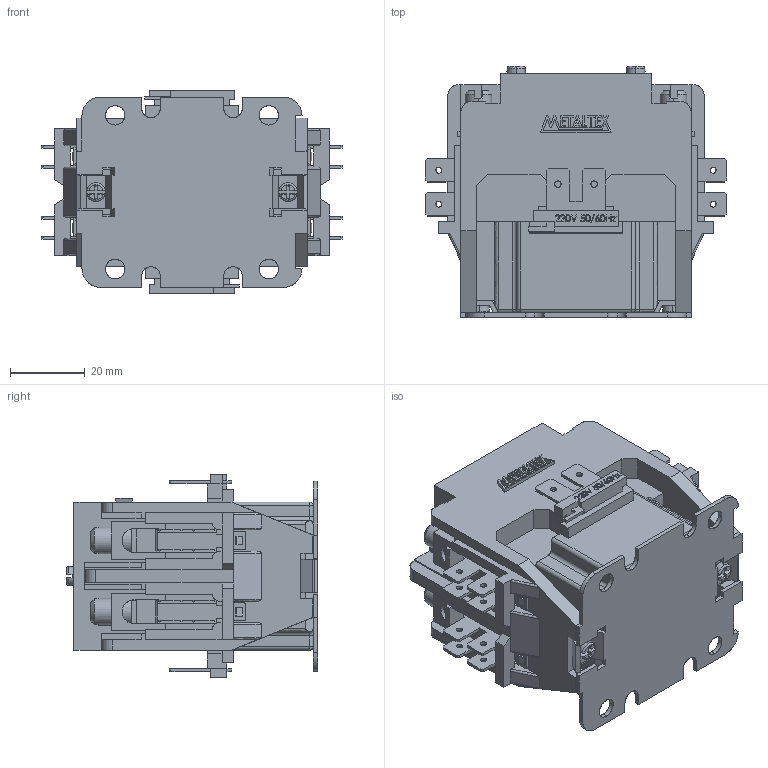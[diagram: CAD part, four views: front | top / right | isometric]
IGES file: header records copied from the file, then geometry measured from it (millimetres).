
Start section: SolidWorks IGES file using analytic representation for surfaces
Global section: file name: D:\X - Arquivos\PROEX\Empresas\P11 - METALTEX\01 - Produtos\IGES\Terceira remessa\DPA2040.IGS; native system: SolidWorks 2012; preprocessor: SolidWorks 2012; author: Usuario; date: 180207.113800; units: millimetre
Bounding box: 80.7 x 67.3 x 54.6 mm (x, y, z)
Surface area: 34838.3 mm2 (no closed solid volume)
Topology: 0 solids, 0 shells, 1063 faces, 9601 edges, 9597 vertices
Faces by surface type: bspline 893, revolution 170
